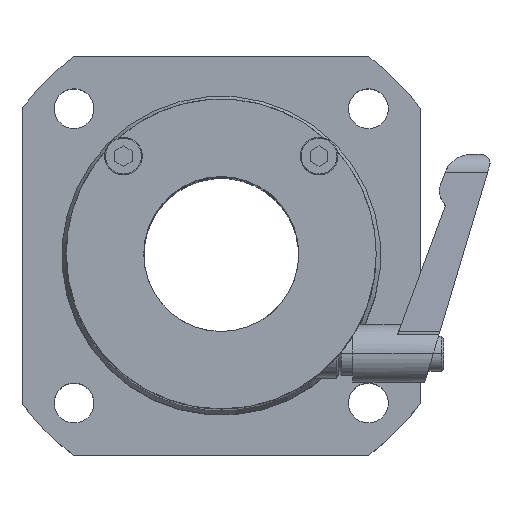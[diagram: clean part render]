
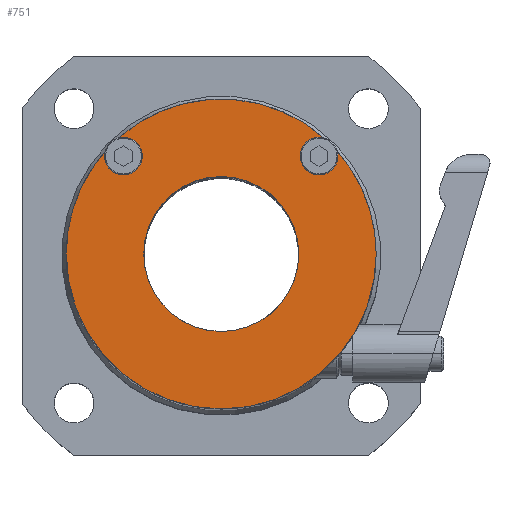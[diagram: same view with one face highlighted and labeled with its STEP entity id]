
A CAD part, top view. The second image highlights one B-rep face of the part: STEP entity #751.
In plain terms, the highlighted planar face has unit normal (0, 0, 1).
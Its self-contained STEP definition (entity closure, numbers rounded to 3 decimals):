
#22 = CIRCLE ( 'NONE', #7058, 4.25 ) ;
#78 = DIRECTION ( 'NONE',  ( 0., 0., 1. ) ) ;
#299 = CIRCLE ( 'NONE', #7003, 35. ) ;
#639 = CIRCLE ( 'NONE', #2261, 35. ) ;
#751 = ADVANCED_FACE ( 'NONE', ( #8180, #9751 ), #5485, .T. ) ;
#926 = EDGE_CURVE ( 'NONE', #8446, #1209, #3024, .T. ) ;
#992 = CARTESIAN_POINT ( 'NONE',  ( 32.443, -0.9, 90. ) ) ;
#1065 = CIRCLE ( 'NONE', #2378, 4.25 ) ;
#1185 = CARTESIAN_POINT ( 'NONE',  ( -37.557, -0.9, 90. ) ) ;
#1209 = VERTEX_POINT ( 'NONE', #3227 ) ;
#1334 = DIRECTION ( 'NONE',  ( 1., 0., 0. ) ) ;
#1370 = EDGE_LOOP ( 'NONE', ( #4779, #6747, #2328, #8379, #7260, #8221, #4967, #4994, #5846, #2134 ) ) ;
#1408 = VERTEX_POINT ( 'NONE', #7813 ) ;
#1497 = AXIS2_PLACEMENT_3D ( 'NONE', #6970, #3651, #10120 ) ;
#1525 = DIRECTION ( 'NONE',  ( 1., 0., 0. ) ) ;
#1983 = EDGE_CURVE ( 'NONE', #9456, #9911, #639, .T. ) ;
#2134 = ORIENTED_EDGE ( 'NONE', *, *, #926, .F. ) ;
#2261 = AXIS2_PLACEMENT_3D ( 'NONE', #8972, #2741, #1334 ) ;
#2278 = EDGE_CURVE ( 'NONE', #8446, #9456, #299, .T. ) ;
#2289 = CARTESIAN_POINT ( 'NONE',  ( -24.657, 21.2, 90. ) ) ;
#2318 = CARTESIAN_POINT ( 'NONE',  ( -2.557, -0.9, 90. ) ) ;
#2328 = ORIENTED_EDGE ( 'NONE', *, *, #6222, .T. ) ;
#2378 = AXIS2_PLACEMENT_3D ( 'NONE', #8580, #78, #2445 ) ;
#2445 = DIRECTION ( 'NONE',  ( 1., 0., 0. ) ) ;
#2615 = DIRECTION ( 'NONE',  ( 0., 0., 1. ) ) ;
#2648 = CIRCLE ( 'NONE', #7379, 17.5 ) ;
#2741 = DIRECTION ( 'NONE',  ( 0., 0., 1. ) ) ;
#2923 = CARTESIAN_POINT ( 'NONE',  ( 20.644, 25.305, 90. ) ) ;
#2944 = DIRECTION ( 'NONE',  ( 1., 0., 0. ) ) ;
#2981 = CIRCLE ( 'NONE', #1497, 4.25 ) ;
#3024 = CIRCLE ( 'NONE', #9053, 4.25 ) ;
#3074 = EDGE_CURVE ( 'NONE', #5324, #5303, #5256, .T. ) ;
#3227 = CARTESIAN_POINT ( 'NONE',  ( -28.907, 21.2, 90. ) ) ;
#3303 = CIRCLE ( 'NONE', #4588, 35. ) ;
#3319 = VERTEX_POINT ( 'NONE', #3676 ) ;
#3651 = DIRECTION ( 'NONE',  ( 0., 0., 1. ) ) ;
#3676 = CARTESIAN_POINT ( 'NONE',  ( 14.943, -0.9, 90. ) ) ;
#3805 = EDGE_CURVE ( 'NONE', #8632, #4731, #7474, .T. ) ;
#3875 = AXIS2_PLACEMENT_3D ( 'NONE', #5686, #4036, #8607 ) ;
#4036 = DIRECTION ( 'NONE',  ( 0., 0., 1. ) ) ;
#4139 = AXIS2_PLACEMENT_3D ( 'NONE', #8608, #4722, #7898 ) ;
#4255 = DIRECTION ( 'NONE',  ( 0., 0., 1. ) ) ;
#4289 = EDGE_CURVE ( 'NONE', #8632, #5303, #8305, .T. ) ;
#4356 = CARTESIAN_POINT ( 'NONE',  ( -2.557, -0.9, 90. ) ) ;
#4399 = EDGE_CURVE ( 'NONE', #3319, #1408, #8792, .T. ) ;
#4509 = EDGE_CURVE ( 'NONE', #8586, #10004, #22, .T. ) ;
#4588 = AXIS2_PLACEMENT_3D ( 'NONE', #5968, #6742, #8338 ) ;
#4722 = DIRECTION ( 'NONE',  ( 0., 0., 1. ) ) ;
#4731 = VERTEX_POINT ( 'NONE', #9332 ) ;
#4779 = ORIENTED_EDGE ( 'NONE', *, *, #2278, .T. ) ;
#4884 = DIRECTION ( 'NONE',  ( 0., 0., 1. ) ) ;
#4967 = ORIENTED_EDGE ( 'NONE', *, *, #4289, .T. ) ;
#4994 = ORIENTED_EDGE ( 'NONE', *, *, #3074, .F. ) ;
#5102 = EDGE_LOOP ( 'NONE', ( #10105, #8613 ) ) ;
#5124 = CARTESIAN_POINT ( 'NONE',  ( -25.759, 25.305, 90. ) ) ;
#5256 = CIRCLE ( 'NONE', #6724, 4.25 ) ;
#5303 = VERTEX_POINT ( 'NONE', #5124 ) ;
#5324 = VERTEX_POINT ( 'NONE', #5325 ) ;
#5325 = CARTESIAN_POINT ( 'NONE',  ( -20.407, 21.2, 90. ) ) ;
#5358 = AXIS2_PLACEMENT_3D ( 'NONE', #8163, #4255, #5947 ) ;
#5485 = PLANE ( 'NONE',  #4139 ) ;
#5560 = DIRECTION ( 'NONE',  ( 0., 0., 1. ) ) ;
#5655 = CARTESIAN_POINT ( 'NONE',  ( 19.543, 21.2, 90. ) ) ;
#5678 = EDGE_CURVE ( 'NONE', #1408, #3319, #2648, .T. ) ;
#5684 = EDGE_CURVE ( 'NONE', #4731, #8586, #2981, .T. ) ;
#5686 = CARTESIAN_POINT ( 'NONE',  ( 19.543, 21.2, 90. ) ) ;
#5845 = DIRECTION ( 'NONE',  ( 0., 0., 1. ) ) ;
#5846 = ORIENTED_EDGE ( 'NONE', *, *, #9715, .F. ) ;
#5947 = DIRECTION ( 'NONE',  ( 1., 0., 0. ) ) ;
#5968 = CARTESIAN_POINT ( 'NONE',  ( -2.557, -0.9, 90. ) ) ;
#6222 = EDGE_CURVE ( 'NONE', #9911, #10004, #3303, .T. ) ;
#6443 = CARTESIAN_POINT ( 'NONE',  ( -2.557, -0.9, 90. ) ) ;
#6718 = DIRECTION ( 'NONE',  ( 1., 0., 0. ) ) ;
#6724 = AXIS2_PLACEMENT_3D ( 'NONE', #6954, #10059, #8448 ) ;
#6742 = DIRECTION ( 'NONE',  ( 0., 0., 1. ) ) ;
#6747 = ORIENTED_EDGE ( 'NONE', *, *, #1983, .T. ) ;
#6954 = CARTESIAN_POINT ( 'NONE',  ( -24.657, 21.2, 90. ) ) ;
#6970 = CARTESIAN_POINT ( 'NONE',  ( 19.543, 21.2, 90. ) ) ;
#7003 = AXIS2_PLACEMENT_3D ( 'NONE', #6443, #2615, #8023 ) ;
#7058 = AXIS2_PLACEMENT_3D ( 'NONE', #5655, #4884, #7231 ) ;
#7231 = DIRECTION ( 'NONE',  ( 1., 0., 0. ) ) ;
#7260 = ORIENTED_EDGE ( 'NONE', *, *, #5684, .F. ) ;
#7379 = AXIS2_PLACEMENT_3D ( 'NONE', #2318, #7638, #2944 ) ;
#7474 = CIRCLE ( 'NONE', #3875, 4.25 ) ;
#7638 = DIRECTION ( 'NONE',  ( 0., 0., 1. ) ) ;
#7789 = CARTESIAN_POINT ( 'NONE',  ( -28.762, 22.302, 90. ) ) ;
#7813 = CARTESIAN_POINT ( 'NONE',  ( -20.057, -0.9, 90. ) ) ;
#7898 = DIRECTION ( 'NONE',  ( 1., 0., 0. ) ) ;
#8023 = DIRECTION ( 'NONE',  ( 1., 0., 0. ) ) ;
#8163 = CARTESIAN_POINT ( 'NONE',  ( -2.557, -0.9, 90. ) ) ;
#8180 = FACE_OUTER_BOUND ( 'NONE', #1370, .T. ) ;
#8221 = ORIENTED_EDGE ( 'NONE', *, *, #3805, .F. ) ;
#8305 = CIRCLE ( 'NONE', #5358, 35. ) ;
#8338 = DIRECTION ( 'NONE',  ( 1., 0., 0. ) ) ;
#8379 = ORIENTED_EDGE ( 'NONE', *, *, #4509, .F. ) ;
#8446 = VERTEX_POINT ( 'NONE', #7789 ) ;
#8448 = DIRECTION ( 'NONE',  ( 1., 0., 0. ) ) ;
#8580 = CARTESIAN_POINT ( 'NONE',  ( -24.657, 21.2, 90. ) ) ;
#8586 = VERTEX_POINT ( 'NONE', #9846 ) ;
#8607 = DIRECTION ( 'NONE',  ( 1., 0., 0. ) ) ;
#8608 = CARTESIAN_POINT ( 'NONE',  ( -2.557, -0.9, 90. ) ) ;
#8613 = ORIENTED_EDGE ( 'NONE', *, *, #4399, .F. ) ;
#8615 = CARTESIAN_POINT ( 'NONE',  ( 23.648, 22.302, 90. ) ) ;
#8632 = VERTEX_POINT ( 'NONE', #2923 ) ;
#8792 = CIRCLE ( 'NONE', #9622, 17.5 ) ;
#8972 = CARTESIAN_POINT ( 'NONE',  ( -2.557, -0.9, 90. ) ) ;
#9053 = AXIS2_PLACEMENT_3D ( 'NONE', #2289, #5560, #1525 ) ;
#9332 = CARTESIAN_POINT ( 'NONE',  ( 15.293, 21.2, 90. ) ) ;
#9456 = VERTEX_POINT ( 'NONE', #1185 ) ;
#9622 = AXIS2_PLACEMENT_3D ( 'NONE', #4356, #5845, #6718 ) ;
#9715 = EDGE_CURVE ( 'NONE', #1209, #5324, #1065, .T. ) ;
#9751 = FACE_BOUND ( 'NONE', #5102, .T. ) ;
#9846 = CARTESIAN_POINT ( 'NONE',  ( 23.793, 21.2, 90. ) ) ;
#9911 = VERTEX_POINT ( 'NONE', #992 ) ;
#10004 = VERTEX_POINT ( 'NONE', #8615 ) ;
#10059 = DIRECTION ( 'NONE',  ( 0., 0., 1. ) ) ;
#10105 = ORIENTED_EDGE ( 'NONE', *, *, #5678, .F. ) ;
#10120 = DIRECTION ( 'NONE',  ( 1., 0., 0. ) ) ;
